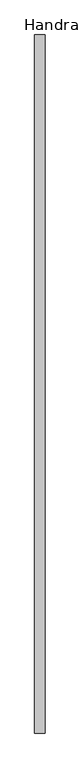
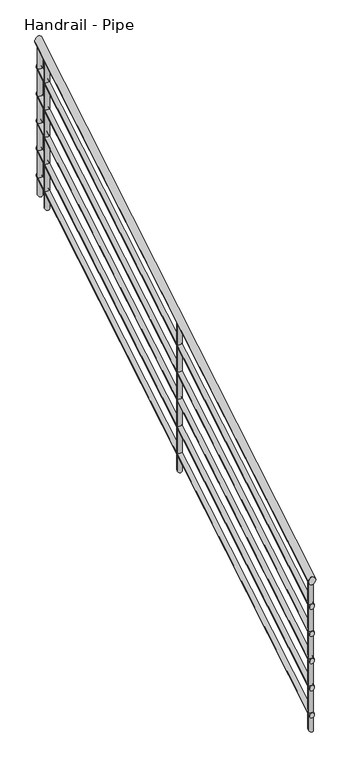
"""IFC4 building model written with IfcOpenShell, lengths in millimetres: railing geometry, Handrail - Pipe."""

import ifcopenshell
import ifcopenshell.guid

model = None  # the IFC model being written
_history = None  # IfcOwnerHistory: only IFC2X3 demands one
_inside = {}  # id of a spatial element -> (the spatial element, [elements in it])
_under = {}  # id of a project, library or spatial element -> (it, [spatial elements below it])
_declared = {}  # id of a project -> (the project, [libraries it declares])
_typed = {}  # id of a type object -> (the type object, [elements of that type])
_made_of = {}  # id of a material, layer set ... -> (it, [elements and type objects made of it])


def new_model(schema):
    """Start an empty IFC model of exactly this schema.

    Asked for "IFC4X3", IfcOpenShell would pick the latest addendum, in which some entities
    have other attributes; the version numbers below select the first issue.
    IFC2X3 requires an IfcOwnerHistory on every rooted entity: one is made here for all.
    """
    global model, _history
    if schema == "IFC4X3":
        model = ifcopenshell.file(schema_version=(4, 3, 0, 0))
    else:
        model = ifcopenshell.file(schema=schema)
    _inside.clear()
    _under.clear()
    _declared.clear()
    _typed.clear()
    _made_of.clear()
    _history = None
    if model.schema == "IFC2X3":
        org = make("IfcOrganization", Name="unknown")
        user = make(
            "IfcPersonAndOrganization",
            ThePerson=make("IfcPerson", FamilyName="unknown"),
            TheOrganization=org,
        )
        app = make(
            "IfcApplication",
            ApplicationDeveloper=org,
            Version="unknown",
            ApplicationFullName="unknown",
            ApplicationIdentifier="unknown",
        )
        _history = make(
            "IfcOwnerHistory",
            OwningUser=user,
            OwningApplication=app,
            ChangeAction="ADDED",
            CreationDate=0,
        )
    return model


def make(cls, **values):
    """One entity of the class cls with the attributes given. An attribute that is None is left unset."""
    return model.create_entity(
        cls, **{name: value for name, value in values.items() if value is not None}
    )


def rooted(cls, **values):
    """An entity with a GlobalId (a new one), such as an element, a storey or a relation."""
    return make(cls, GlobalId=ifcopenshell.guid.new(), OwnerHistory=_history, **values)


def si_unit(unit_type, name, prefix=None):
    """IfcSIUnit, for example si_unit("LENGTHUNIT", "METRE", prefix="MILLI")."""
    return make("IfcSIUnit", UnitType=unit_type, Prefix=prefix, Name=name)


def assignment(units):
    """IfcUnitAssignment: the units of a project."""
    return None if units is None else make("IfcUnitAssignment", Units=units)


def point(xyz):
    """IfcCartesianPoint."""
    return None if xyz is None else make("IfcCartesianPoint", Coordinates=xyz)


def direction(xyz):
    """IfcDirection."""
    return None if xyz is None else make("IfcDirection", DirectionRatios=xyz)


def frame(location, z_axis=None, x_axis=None):
    """IfcAxis2Placement3D, a coordinate frame: its origin and axes. An axis left out is left unset."""
    return make(
        "IfcAxis2Placement3D",
        Location=point(location),
        Axis=direction(z_axis),
        RefDirection=direction(x_axis),
    )


def origin():
    """The frame at (0, 0, 0) with its axes left unset."""
    return frame((0.0, 0.0, 0.0))


def place(relative_to, where):
    """IfcLocalPlacement: puts the frame where relative to a parent placement (None: the world)."""
    return make(
        "IfcLocalPlacement", PlacementRelTo=relative_to, RelativePlacement=where
    )


def context(
    kind, dimensions, precision=None, world=None, true_north=None, identifier=None
):
    """IfcGeometricRepresentationContext, for example the 3D "Model" context."""
    return make(
        "IfcGeometricRepresentationContext",
        ContextIdentifier=identifier,
        ContextType=kind,
        CoordinateSpaceDimension=dimensions,
        Precision=precision,
        WorldCoordinateSystem=world,
        TrueNorth=true_north,
    )


def project(units=None, contexts=None):
    """IfcProject with its units and contexts."""
    return rooted(
        "IfcProject",
        Name="project",
        RepresentationContexts=contexts,
        UnitsInContext=assignment(units),
    )


def spatial(cls, under=None, at=None, **own):
    """A site, building, storey or space (cls), placed at a placement, below another one or the project."""
    s = rooted(cls, ObjectPlacement=at, **own)
    if under is not None:
        _under.setdefault(under.id(), (under, []))[1].append(s)
    return s


def ellipse_curve(where, semi_axis1, semi_axis2):
    """IfcEllipse in the frame where."""
    return make(
        "IfcEllipse", Position=where, SemiAxis1=semi_axis1, SemiAxis2=semi_axis2
    )


def shape(context_of_items, identifier, shape_type, items):
    """IfcShapeRepresentation: the items that make up one representation, for example the "Body"."""
    return make(
        "IfcShapeRepresentation",
        ContextOfItems=context_of_items,
        RepresentationIdentifier=identifier,
        RepresentationType=shape_type,
        Items=items,
    )


def source(mapping_origin, context_of_items, identifier, shape_type, items):
    """IfcRepresentationMap: a shape defined once, which mapped items show again and again."""
    return make(
        "IfcRepresentationMap",
        MappingOrigin=mapping_origin,
        MappedRepresentation=shape(context_of_items, identifier, shape_type, items),
    )


def transform(
    local_origin,
    x_axis=None,
    y_axis=None,
    z_axis=None,
    scale=None,
    scale2=None,
    scale3=None,
    uniform=True,
):
    """IfcCartesianTransformationOperator3D, or its non-uniform kind. x_axis, y_axis, z_axis: its Axis1, 2, 3."""
    if uniform:
        return make(
            "IfcCartesianTransformationOperator3D",
            Axis1=direction(x_axis),
            Axis2=direction(y_axis),
            LocalOrigin=point(local_origin),
            Scale=scale,
            Axis3=direction(z_axis),
        )
    return make(
        "IfcCartesianTransformationOperator3DnonUniform",
        Axis1=direction(x_axis),
        Axis2=direction(y_axis),
        LocalOrigin=point(local_origin),
        Scale=scale,
        Axis3=direction(z_axis),
        Scale2=scale2,
        Scale3=scale3,
    )


def mapped(mapping_source, mapping_target):
    """IfcMappedItem: shows the shape of a source again, moved by a transform."""
    return make(
        "IfcMappedItem", MappingSource=mapping_source, MappingTarget=mapping_target
    )


def made_of(thing, what):
    """Note that an element or type object is made of a material, layer set ...; save() writes the relation."""
    if what is not None:
        _made_of.setdefault(what.id(), (what, []))[1].append(thing)
    return thing


def element(
    cls,
    number,
    at=None,
    inside=None,
    cuts=None,
    type_object=None,
    material=None,
    context=None,
    identifier="Body",
    shape_type=None,
    held_by="IfcProductDefinitionShape",
    body=None,
    shapes=None,
    **own,
):
    """One element of the class cls, such as IfcWall. Its Tag is "e" and its number.

    at: its placement. inside: the storey or other place that contains it. cuts: it is an
    opening in that element (IfcRelVoidsElement). A single representation is given by context,
    identifier, shape_type and body (its items); several are given by shapes. held_by: the class
    of the entity that holds the representations. save() writes the other relations.
    """
    e = rooted(cls, Tag="e%d" % number, ObjectPlacement=at, **own)
    if body is not None:
        shapes = [shape(context, identifier, shape_type, body)]
    if shapes is not None:
        e.Representation = make(held_by, Representations=shapes)
    if inside is not None:
        _inside.setdefault(inside.id(), (inside, []))[1].append(e)
    if cuts is not None:
        rooted(
            "IfcRelVoidsElement", RelatingBuildingElement=cuts, RelatedOpeningElement=e
        )
    if type_object is not None:
        _typed.setdefault(type_object.id(), (type_object, []))[1].append(e)
    return made_of(e, material)


def aggregate(whole, parts):
    """IfcRelAggregates: a whole, such as a stair, and the parts it consists of."""
    return rooted("IfcRelAggregates", RelatingObject=whole, RelatedObjects=parts)


def save(model, path):
    """Write the relations noted so far, then the file.

    IfcRelAggregates (storeys below a building ...), IfcRelContainedInSpatialStructure (elements
    in a storey), IfcRelDefinesByType, IfcRelAssociatesMaterial and IfcRelDeclares: one each for
    every whole, place, type object, material and project.
    """
    for whole, parts in _under.values():
        aggregate(whole, parts)
    for where, things in _inside.values():
        rooted(
            "IfcRelContainedInSpatialStructure",
            RelatedElements=things,
            RelatingStructure=where,
        )
    for kind, things in _typed.values():
        rooted("IfcRelDefinesByType", RelatedObjects=things, RelatingType=kind)
    for what, things in _made_of.values():
        rooted("IfcRelAssociatesMaterial", RelatedObjects=things, RelatingMaterial=what)
    for by, libraries in _declared.values():
        rooted("IfcRelDeclares", RelatingContext=by, RelatedDefinitions=libraries)
    model.write(path)


def plane_surface(at):
    """IfcPlane: the flat surface through the origin of the frame at, square to its z axis."""
    return make("IfcPlane", Position=at)


def cylinder_surface(at, radius):
    """IfcCylindricalSurface: all points at the distance radius from the z axis of the frame at."""
    return make("IfcCylindricalSurface", Position=at, Radius=radius)


def advanced_brep(points, edges, surfaces, faces):
    """IfcAdvancedBrep: a solid bounded by faces that lie on surfaces and meet in shared edges.

    An edge is (start, end): straight between two places in points (the first is 0);
    or (start, end, curve); or (start, end, curve, False) where it runs against its curve.
    A face is (place in surfaces, loops), or (place, loops, False) where it looks against
    its surface's normal. A loop lists edges by number (the first is 1), with a minus sign
    where the edge is run from its end to its start. The first loop is the outer one.
    """
    corners = [point(p) for p in points]
    vertices = [make("IfcVertexPoint", VertexGeometry=c) for c in corners]
    made = []
    for start, end, *more in edges:
        made.append(
            make(
                "IfcEdgeCurve",
                EdgeStart=vertices[start],
                EdgeEnd=vertices[end],
                EdgeGeometry=more[0] if more else make("IfcPolyline", Points=[corners[start], corners[end]]),
                SameSense=more[1] if len(more) > 1 else True,
            )
        )
    hull = []
    for where, loops, *sense in faces:
        bounds = []
        for j, loop in enumerate(loops):
            ring = [make("IfcOrientedEdge", EdgeElement=made[abs(k) - 1], Orientation=k > 0) for k in loop]
            bounds.append(
                make(
                    "IfcFaceOuterBound" if j == 0 else "IfcFaceBound",
                    Bound=make("IfcEdgeLoop", EdgeList=ring),
                    Orientation=True,
                )
            )
        hull.append(make("IfcAdvancedFace", Bounds=bounds, FaceSurface=surfaces[where], SameSense=sense[0] if sense else True))
    return make("IfcAdvancedBrep", Outer=make("IfcClosedShell", CfsFaces=hull))


def handrail_pipe_0a2d2162(model_context):
    return source(origin(), model_context, "Body", "AdvancedBrep", [
        advanced_brep(
        [(-7645.6286726, -8786.6671527, -464.1759267), (-7683.7286726, -8786.6671527, -464.1759267), (-7645.6286726, -6272.0671527, 1044.5840733), (-7683.7286726, -6272.0671527, 1044.5840733)],
        [
            (0, 1, ellipse_curve(frame((-7664.6786726, -8786.6671527, -464.1759267), z_axis=(0.0, -1.0, 0.0), x_axis=(0.0, 0.0, -1.0)), 22.2159267, 19.05)),
            (1, 0, ellipse_curve(frame((-7664.6786726, -8786.6671527, -464.1759267), z_axis=(0.0, -1.0, 0.0), x_axis=(0.0, 0.0, -1.0)), 22.2159267, 19.05)),
            (2, 3, ellipse_curve(frame((-7664.6786726, -6272.0671527, 1044.5840733), z_axis=(0.0, 1.0, 0.0), x_axis=(0.0, 0.0, -1.0)), 22.2159267, 19.05)),
            (3, 2, ellipse_curve(frame((-7664.6786726, -6272.0671527, 1044.5840733), z_axis=(0.0, 1.0, 0.0), x_axis=(0.0, 0.0, -1.0)), 22.2159267, 19.05)),
            (0, 2),
            (3, 1),
        ],
        [
            plane_surface(frame((-7664.6786726, -8786.6671527, -441.96), z_axis=(0.0, -1.0, 0.0), x_axis=(0.0, 0.0, 1.0))),
            plane_surface(frame((-7664.6786726, -6272.0671527, 1066.8), z_axis=(0.0, 1.0, 0.0), x_axis=(0.0, 0.0, 1.0))),
            cylinder_surface(frame((-7664.6786726, -8776.8660086, -458.2952402), z_axis=(0.0, -0.8574929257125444, -0.5144957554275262), x_axis=(-1.0, 0.0, 0.0)), 19.05),
        ],
        [
            (0, [[1, 2]]),
            (1, [[3, 4]]),
            (2, [[-1, 5, -4, 6]]),
            (2, [[-2, -6, -3, -5]]),
        ],
    ),
        advanced_brep(
        [(-7651.9786726, -8786.6671527, -609.1706178), (-7677.3786726, -8786.6671527, -609.1706178), (-7651.9786726, -6272.0671527, 899.5893822), (-7677.3786726, -6272.0671527, 899.5893822)],
        [
            (0, 1, ellipse_curve(frame((-7664.6786726, -8786.6671527, -609.1706178), z_axis=(0.0, -1.0, 0.0), x_axis=(0.0, 0.0, -1.0)), 14.8106178, 12.7)),
            (1, 0, ellipse_curve(frame((-7664.6786726, -8786.6671527, -609.1706178), z_axis=(0.0, -1.0, 0.0), x_axis=(0.0, 0.0, -1.0)), 14.8106178, 12.7)),
            (2, 3, ellipse_curve(frame((-7664.6786726, -6272.0671527, 899.5893822), z_axis=(0.0, 1.0, 0.0), x_axis=(0.0, 0.0, -1.0)), 14.8106178, 12.7)),
            (3, 2, ellipse_curve(frame((-7664.6786726, -6272.0671527, 899.5893822), z_axis=(0.0, 1.0, 0.0), x_axis=(0.0, 0.0, -1.0)), 14.8106178, 12.7)),
            (0, 2),
            (3, 1),
        ],
        [
            plane_surface(frame((-7664.6786726, -8786.6671527, -594.36), z_axis=(0.0, -1.0, 0.0), x_axis=(0.0, 0.0, 1.0))),
            plane_surface(frame((-7664.6786726, -6272.0671527, 914.4), z_axis=(0.0, 1.0, 0.0), x_axis=(0.0, 0.0, 1.0))),
            cylinder_surface(frame((-7664.6786726, -8780.1330567, -605.2501602), z_axis=(0.0, -0.8574929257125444, -0.5144957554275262), x_axis=(-1.0, 0.0, 0.0)), 12.7),
        ],
        [
            (0, [[1, 2]]),
            (1, [[3, 4]]),
            (2, [[-1, 5, -4, 6]]),
            (2, [[-2, -6, -3, -5]]),
        ],
    ),
        advanced_brep(
        [(-7651.9786726, -8786.6671527, -761.5706178), (-7677.3786726, -8786.6671527, -761.5706178), (-7651.9786726, -6272.0671527, 747.1893822), (-7677.3786726, -6272.0671527, 747.1893822)],
        [
            (0, 1, ellipse_curve(frame((-7664.6786726, -8786.6671527, -761.5706178), z_axis=(0.0, -1.0, 0.0), x_axis=(0.0, 0.0, -1.0)), 14.8106178, 12.7)),
            (1, 0, ellipse_curve(frame((-7664.6786726, -8786.6671527, -761.5706178), z_axis=(0.0, -1.0, 0.0), x_axis=(0.0, 0.0, -1.0)), 14.8106178, 12.7)),
            (2, 3, ellipse_curve(frame((-7664.6786726, -6272.0671527, 747.1893822), z_axis=(0.0, 1.0, 0.0), x_axis=(0.0, 0.0, -1.0)), 14.8106178, 12.7)),
            (3, 2, ellipse_curve(frame((-7664.6786726, -6272.0671527, 747.1893822), z_axis=(0.0, 1.0, 0.0), x_axis=(0.0, 0.0, -1.0)), 14.8106178, 12.7)),
            (0, 2),
            (3, 1),
        ],
        [
            plane_surface(frame((-7664.6786726, -8786.6671527, -746.76), z_axis=(0.0, -1.0, 0.0), x_axis=(0.0, 0.0, 1.0))),
            plane_surface(frame((-7664.6786726, -6272.0671527, 762.0), z_axis=(0.0, 1.0, 0.0), x_axis=(0.0, 0.0, 1.0))),
            cylinder_surface(frame((-7664.6786726, -8780.1330567, -757.6501602), z_axis=(0.0, -0.8574929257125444, -0.5144957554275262), x_axis=(-1.0, 0.0, 0.0)), 12.7),
        ],
        [
            (0, [[1, 2]]),
            (1, [[3, 4]]),
            (2, [[-1, 5, -4, 6]]),
            (2, [[-2, -6, -3, -5]]),
        ],
    ),
        advanced_brep(
        [(-7651.9786726, -8786.6671527, -913.9706178), (-7677.3786726, -8786.6671527, -913.9706178), (-7651.9786726, -6272.0671527, 594.7893822), (-7677.3786726, -6272.0671527, 594.7893822)],
        [
            (0, 1, ellipse_curve(frame((-7664.6786726, -8786.6671527, -913.9706178), z_axis=(0.0, -1.0, 0.0), x_axis=(0.0, 0.0, -1.0)), 14.8106178, 12.7)),
            (1, 0, ellipse_curve(frame((-7664.6786726, -8786.6671527, -913.9706178), z_axis=(0.0, -1.0, 0.0), x_axis=(0.0, 0.0, -1.0)), 14.8106178, 12.7)),
            (2, 3, ellipse_curve(frame((-7664.6786726, -6272.0671527, 594.7893822), z_axis=(0.0, 1.0, 0.0), x_axis=(0.0, 0.0, -1.0)), 14.8106178, 12.7)),
            (3, 2, ellipse_curve(frame((-7664.6786726, -6272.0671527, 594.7893822), z_axis=(0.0, 1.0, 0.0), x_axis=(0.0, 0.0, -1.0)), 14.8106178, 12.7)),
            (0, 2),
            (3, 1),
        ],
        [
            plane_surface(frame((-7664.6786726, -8786.6671527, -899.16), z_axis=(0.0, -1.0, 0.0), x_axis=(0.0, 0.0, 1.0))),
            plane_surface(frame((-7664.6786726, -6272.0671527, 609.6), z_axis=(0.0, 1.0, 0.0), x_axis=(0.0, 0.0, 1.0))),
            cylinder_surface(frame((-7664.6786726, -8780.1330567, -910.0501602), z_axis=(0.0, -0.8574929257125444, -0.5144957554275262), x_axis=(-1.0, 0.0, 0.0)), 12.7),
        ],
        [
            (0, [[1, 2]]),
            (1, [[3, 4]]),
            (2, [[-1, 5, -4, 6]]),
            (2, [[-2, -6, -3, -5]]),
        ],
    ),
        advanced_brep(
        [(-7651.9786726, -8786.6671527, -1066.3706178), (-7677.3786726, -8786.6671527, -1066.3706178), (-7651.9786726, -6272.0671527, 442.3893822), (-7677.3786726, -6272.0671527, 442.3893822)],
        [
            (0, 1, ellipse_curve(frame((-7664.6786726, -8786.6671527, -1066.3706178), z_axis=(0.0, -1.0, 0.0), x_axis=(0.0, 0.0, -1.0)), 14.8106178, 12.7)),
            (1, 0, ellipse_curve(frame((-7664.6786726, -8786.6671527, -1066.3706178), z_axis=(0.0, -1.0, 0.0), x_axis=(0.0, 0.0, -1.0)), 14.8106178, 12.7)),
            (2, 3, ellipse_curve(frame((-7664.6786726, -6272.0671527, 442.3893822), z_axis=(0.0, 1.0, 0.0), x_axis=(0.0, 0.0, -1.0)), 14.8106178, 12.7)),
            (3, 2, ellipse_curve(frame((-7664.6786726, -6272.0671527, 442.3893822), z_axis=(0.0, 1.0, 0.0), x_axis=(0.0, 0.0, -1.0)), 14.8106178, 12.7)),
            (0, 2),
            (3, 1),
        ],
        [
            plane_surface(frame((-7664.6786726, -8786.6671527, -1051.56), z_axis=(0.0, -1.0, 0.0), x_axis=(0.0, 0.0, 1.0))),
            plane_surface(frame((-7664.6786726, -6272.0671527, 457.2), z_axis=(0.0, 1.0, 0.0), x_axis=(0.0, 0.0, 1.0))),
            cylinder_surface(frame((-7664.6786726, -8780.1330567, -1062.4501602), z_axis=(0.0, -0.8574929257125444, -0.5144957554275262), x_axis=(-1.0, 0.0, 0.0)), 12.7),
        ],
        [
            (0, [[1, 2]]),
            (1, [[3, 4]]),
            (2, [[-1, 5, -4, 6]]),
            (2, [[-2, -6, -3, -5]]),
        ],
    ),
        advanced_brep(
        [(-7651.9786726, -8786.6671527, -1218.7706178), (-7677.3786726, -8786.6671527, -1218.7706178), (-7651.9786726, -6272.0671527, 289.9893822), (-7677.3786726, -6272.0671527, 289.9893822)],
        [
            (0, 1, ellipse_curve(frame((-7664.6786726, -8786.6671527, -1218.7706178), z_axis=(0.0, -1.0, 0.0), x_axis=(0.0, 0.0, -1.0)), 14.8106178, 12.7)),
            (1, 0, ellipse_curve(frame((-7664.6786726, -8786.6671527, -1218.7706178), z_axis=(0.0, -1.0, 0.0), x_axis=(0.0, 0.0, -1.0)), 14.8106178, 12.7)),
            (2, 3, ellipse_curve(frame((-7664.6786726, -6272.0671527, 289.9893822), z_axis=(0.0, 1.0, 0.0), x_axis=(0.0, 0.0, -1.0)), 14.8106178, 12.7)),
            (3, 2, ellipse_curve(frame((-7664.6786726, -6272.0671527, 289.9893822), z_axis=(0.0, 1.0, 0.0), x_axis=(0.0, 0.0, -1.0)), 14.8106178, 12.7)),
            (0, 2),
            (3, 1),
        ],
        [
            plane_surface(frame((-7664.6786726, -8786.6671527, -1203.96), z_axis=(0.0, -1.0, 0.0), x_axis=(0.0, 0.0, 1.0))),
            plane_surface(frame((-7664.6786726, -6272.0671527, 304.8), z_axis=(0.0, 1.0, 0.0), x_axis=(0.0, 0.0, 1.0))),
            cylinder_surface(frame((-7664.6786726, -8780.1330567, -1214.8501602), z_axis=(0.0, -0.8574929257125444, -0.5144957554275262), x_axis=(-1.0, 0.0, 0.0)), 12.7),
        ],
        [
            (0, [[1, 2]]),
            (1, [[3, 4]]),
            (2, [[-1, 5, -4, 6]]),
            (2, [[-2, -6, -3, -5]]),
        ],
    ),
        advanced_brep(
        [(-7677.3786726, -6348.2671527, 976.6481466), (-7651.9786726, -6348.2671527, 976.6481466), (-7651.9786726, -6348.2671527, 150.5917384), (-7677.3786726, -6348.2671527, 150.5917384)],
        [
            (0, 1, ellipse_curve(frame((-7664.6786726, -6348.2671527, 976.6481466), z_axis=(0.0, 0.5144957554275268, -0.8574929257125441), x_axis=(0.0, 0.8574929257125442, 0.5144957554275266)), 14.8106178, 12.7)),
            (1, 2),
            (2, 3, ellipse_curve(frame((-7664.6786726, -6348.2671527, 150.5917384), z_axis=(0.0, -0.5144957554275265, 0.8574929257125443), x_axis=(0.0, 0.8574929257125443, 0.514495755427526)), 14.8106178, 12.7)),
            (3, 0),
            (3, 2, ellipse_curve(frame((-7664.6786726, -6348.2671527, 150.5917384), z_axis=(0.0, -0.5144957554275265, 0.8574929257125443), x_axis=(0.0, 0.8574929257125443, 0.514495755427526)), 14.8106178, 12.7)),
            (1, 0, ellipse_curve(frame((-7664.6786726, -6348.2671527, 976.6481466), z_axis=(0.0, 0.5144957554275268, -0.8574929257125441), x_axis=(0.0, 0.8574929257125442, 0.5144957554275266)), 14.8106178, 12.7)),
        ],
        [
            cylinder_surface(frame((-7664.6786726, -6348.2671527, -78.0082616), z_axis=(0.0, 0.0, 1.0), x_axis=(1.0, 0.0, 0.0)), 12.7),
            plane_surface(frame((-7639.2786726, -6322.8671527, 991.8881466), z_axis=(0.0, -0.5144957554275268, 0.8574929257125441), x_axis=(-1.0, 0.0, 0.0))),
            plane_surface(frame((-7639.2786726, -6373.6671527, 135.3517384), z_axis=(0.0, 0.5144957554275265, -0.8574929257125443), x_axis=(-1.0, 0.0, 0.0))),
        ],
        [
            (0, [[1, 2, 3, 4]]),
            (0, [[5, -2, 6, -4]]),
            (1, [[-6, -1]]),
            (2, [[-5, -3]]),
        ],
    ),
        advanced_brep(
        [(-7677.3786726, -7567.4671527, 245.1281466), (-7651.9786726, -7567.4671527, 245.1281466), (-7651.9786726, -7567.4671527, -580.9282616), (-7677.3786726, -7567.4671527, -580.9282616)],
        [
            (0, 1, ellipse_curve(frame((-7664.6786726, -7567.4671527, 245.1281466), z_axis=(0.0, 0.5144957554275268, -0.8574929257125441), x_axis=(0.0, 0.8574929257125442, 0.5144957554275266)), 14.8106178, 12.7)),
            (1, 2),
            (2, 3, ellipse_curve(frame((-7664.6786726, -7567.4671527, -580.9282616), z_axis=(0.0, -0.5144957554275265, 0.8574929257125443), x_axis=(0.0, 0.8574929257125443, 0.514495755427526)), 14.8106178, 12.7)),
            (3, 0),
            (3, 2, ellipse_curve(frame((-7664.6786726, -7567.4671527, -580.9282616), z_axis=(0.0, -0.5144957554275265, 0.8574929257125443), x_axis=(0.0, 0.8574929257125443, 0.514495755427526)), 14.8106178, 12.7)),
            (1, 0, ellipse_curve(frame((-7664.6786726, -7567.4671527, 245.1281466), z_axis=(0.0, 0.5144957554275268, -0.8574929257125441), x_axis=(0.0, 0.8574929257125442, 0.5144957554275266)), 14.8106178, 12.7)),
        ],
        [
            cylinder_surface(frame((-7664.6786726, -7567.4671527, -809.5282616), z_axis=(0.0, 0.0, 1.0), x_axis=(1.0, 0.0, 0.0)), 12.7),
            plane_surface(frame((-7639.2786726, -7542.0671527, 260.3681466), z_axis=(0.0, -0.5144957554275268, 0.8574929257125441), x_axis=(-1.0, 0.0, 0.0))),
            plane_surface(frame((-7639.2786726, -7592.8671527, -596.1682616), z_axis=(0.0, 0.5144957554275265, -0.8574929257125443), x_axis=(-1.0, 0.0, 0.0))),
        ],
        [
            (0, [[1, 2, 3, 4]]),
            (0, [[5, -2, 6, -4]]),
            (1, [[-6, -1]]),
            (2, [[-5, -3]]),
        ],
    ),
        advanced_brep(
        [(-7677.3786726, -6284.7671527, 1014.7481466), (-7651.9786726, -6284.7671527, 1014.7481466), (-7651.9786726, -6284.7671527, 188.6917384), (-7677.3786726, -6284.7671527, 188.6917384)],
        [
            (0, 1, ellipse_curve(frame((-7664.6786726, -6284.7671527, 1014.7481466), z_axis=(0.0, 0.5144957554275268, -0.8574929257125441), x_axis=(0.0, 0.8574929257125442, 0.5144957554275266)), 14.8106178, 12.7)),
            (1, 2),
            (2, 3, ellipse_curve(frame((-7664.6786726, -6284.7671527, 188.6917384), z_axis=(0.0, -0.5144957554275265, 0.8574929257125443), x_axis=(0.0, 0.8574929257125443, 0.514495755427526)), 14.8106178, 12.7)),
            (3, 0),
            (3, 2, ellipse_curve(frame((-7664.6786726, -6284.7671527, 188.6917384), z_axis=(0.0, -0.5144957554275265, 0.8574929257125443), x_axis=(0.0, 0.8574929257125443, 0.514495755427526)), 14.8106178, 12.7)),
            (1, 0, ellipse_curve(frame((-7664.6786726, -6284.7671527, 1014.7481466), z_axis=(0.0, 0.5144957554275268, -0.8574929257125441), x_axis=(0.0, 0.8574929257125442, 0.5144957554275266)), 14.8106178, 12.7)),
        ],
        [
            cylinder_surface(frame((-7664.6786726, -6284.7671527, -39.9082616), z_axis=(0.0, 0.0, 1.0), x_axis=(1.0, 0.0, 0.0)), 12.7),
            plane_surface(frame((-7639.2786726, -6259.3671527, 1029.9881466), z_axis=(0.0, -0.5144957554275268, 0.8574929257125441), x_axis=(-1.0, 0.0, 0.0))),
            plane_surface(frame((-7639.2786726, -6310.1671527, 173.4517384), z_axis=(0.0, 0.5144957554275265, -0.8574929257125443), x_axis=(-1.0, 0.0, 0.0))),
        ],
        [
            (0, [[1, 2, 3, 4]]),
            (0, [[5, -2, 6, -4]]),
            (1, [[-6, -1]]),
            (2, [[-5, -3]]),
        ],
    ),
        advanced_brep(
        [(-7677.3786726, -8773.9671527, -478.7718534), (-7651.9786726, -8773.9671527, -478.7718534), (-7651.9786726, -8773.9671527, -1304.8282616), (-7677.3786726, -8773.9671527, -1304.8282616)],
        [
            (0, 1, ellipse_curve(frame((-7664.6786726, -8773.9671527, -478.7718534), z_axis=(0.0, 0.5144957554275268, -0.8574929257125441), x_axis=(0.0, 0.8574929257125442, 0.5144957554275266)), 14.8106178, 12.7)),
            (1, 2),
            (2, 3, ellipse_curve(frame((-7664.6786726, -8773.9671527, -1304.8282616), z_axis=(0.0, -0.5144957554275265, 0.8574929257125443), x_axis=(0.0, 0.8574929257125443, 0.514495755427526)), 14.8106178, 12.7)),
            (3, 0),
            (3, 2, ellipse_curve(frame((-7664.6786726, -8773.9671527, -1304.8282616), z_axis=(0.0, -0.5144957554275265, 0.8574929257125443), x_axis=(0.0, 0.8574929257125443, 0.514495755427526)), 14.8106178, 12.7)),
            (1, 0, ellipse_curve(frame((-7664.6786726, -8773.9671527, -478.7718534), z_axis=(0.0, 0.5144957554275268, -0.8574929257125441), x_axis=(0.0, 0.8574929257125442, 0.5144957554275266)), 14.8106178, 12.7)),
        ],
        [
            cylinder_surface(frame((-7664.6786726, -8773.9671527, -1533.4282616), z_axis=(0.0, 0.0, 1.0), x_axis=(1.0, 0.0, 0.0)), 12.7),
            plane_surface(frame((-7639.2786726, -8748.5671527, -463.5318534), z_axis=(0.0, -0.5144957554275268, 0.8574929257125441), x_axis=(-1.0, 0.0, 0.0))),
            plane_surface(frame((-7639.2786726, -8799.3671527, -1320.0682616), z_axis=(0.0, 0.5144957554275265, -0.8574929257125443), x_axis=(-1.0, 0.0, 0.0))),
        ],
        [
            (0, [[1, 2, 3, 4]]),
            (0, [[5, -2, 6, -4]]),
            (1, [[-6, -1]]),
            (2, [[-5, -3]]),
        ],
    ),
    ])


if __name__ == "__main__":
    model = new_model("IFC4")
    model_context = context("Model", 3, world=origin())
    ifc_project = project(units=[si_unit("LENGTHUNIT", "METRE", prefix="MILLI")], contexts=[model_context])
    site = spatial("IfcSite", under=ifc_project)
    building = spatial("IfcBuilding", under=site)
    placement = place(None, origin())
    handrail_pipe_shape = handrail_pipe_0a2d2162(model_context)
    element("IfcRailing", 1, ObjectType="Handrail - Pipe", at=placement, inside=building, context=model_context, shape_type="MappedRepresentation", body=[
        mapped(handrail_pipe_shape, transform((0.0, 0.0, 0.0), x_axis=(1.0, 0.0, 0.0), y_axis=(0.0, 1.0, 0.0), z_axis=(0.0, 0.0, 1.0))),
    ])
    save(model, "model.ifc")
